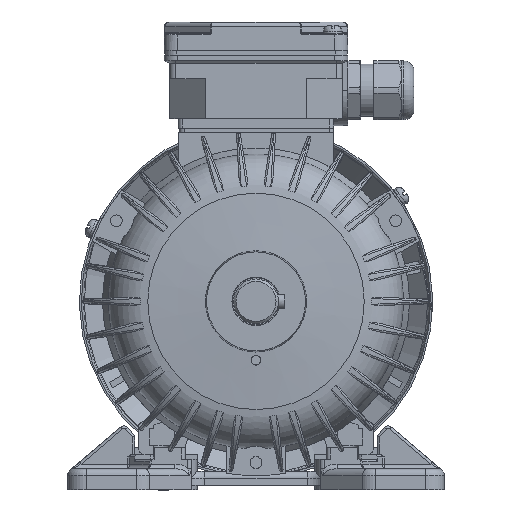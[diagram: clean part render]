
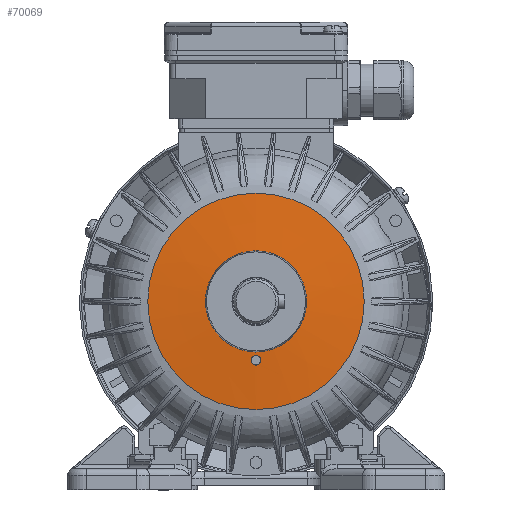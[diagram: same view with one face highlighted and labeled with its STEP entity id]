
A CAD part, left-side view. The second image highlights one B-rep face of the part: STEP entity #70069.
In plain terms, the highlighted conical face has half-angle 85.5 degrees and reference radius 21.472 mm.
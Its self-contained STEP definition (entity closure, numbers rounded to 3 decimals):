
#575=CONICAL_SURFACE('',#74330,21.472,1.492);
#1542=B_SPLINE_CURVE_WITH_KNOTS('',3,(#109697,#109698,#109699,#109700,#109701,
#109702,#109703,#109704,#109705,#109706,#109707),.UNSPECIFIED.,.T.,.F.,
(1,1,1,1,1,1,1,1,1,1,1,1,1,1,1),(-0.005,-0.003,
-0.002,0.,0.002,0.003,
0.005,0.006,0.008,0.009,
0.011,0.013,0.014,0.016,
0.017),.UNSPECIFIED.);
#20590=ORIENTED_EDGE('',*,*,#31304,.F.);
#20591=ORIENTED_EDGE('',*,*,#31128,.T.);
#20592=ORIENTED_EDGE('',*,*,#31305,.T.);
#31128=EDGE_CURVE('',#37374,#37374,#40696,.T.);
#31304=EDGE_CURVE('',#37432,#37432,#40767,.T.);
#31305=EDGE_CURVE('',#37433,#37433,#1542,.T.);
#37374=VERTEX_POINT('',#106429);
#37432=VERTEX_POINT('',#109696);
#37433=VERTEX_POINT('',#109708);
#40696=CIRCLE('',#74151,45.912);
#40767=CIRCLE('',#74331,21.472);
#43560=EDGE_LOOP('',(#20590));
#43561=EDGE_LOOP('',(#20591));
#43562=EDGE_LOOP('',(#20592));
#46919=FACE_BOUND('',#43560,.T.);
#46920=FACE_BOUND('',#43561,.T.);
#46921=FACE_BOUND('',#43562,.T.);
#70069=ADVANCED_FACE('',(#46919,#46920,#46921),#575,.T.);
#74151=AXIS2_PLACEMENT_3D('',#106428,#84752,#84753);
#74330=AXIS2_PLACEMENT_3D('',#109694,#85135,#85136);
#74331=AXIS2_PLACEMENT_3D('',#109695,#85137,#85138);
#84752=DIRECTION('',(-1.,0.,0.));
#84753=DIRECTION('',(0.,0.,-1.));
#85135=DIRECTION('',(1.,0.,0.));
#85136=DIRECTION('',(0.,0.,1.));
#85137=DIRECTION('',(-1.,0.,0.));
#85138=DIRECTION('',(0.,0.,-1.));
#106428=CARTESIAN_POINT('',(-32.577,0.,0.));
#106429=CARTESIAN_POINT('',(-32.577,0.,-45.912));
#109694=CARTESIAN_POINT('',(-34.5,0.,0.));
#109695=CARTESIAN_POINT('',(-34.5,0.,0.));
#109696=CARTESIAN_POINT('',(-34.5,0.,-21.472));
#109697=CARTESIAN_POINT('',(-34.049,-0.01,-27.218));
#109698=CARTESIAN_POINT('',(-34.096,1.564,-26.571));
#109699=CARTESIAN_POINT('',(-34.214,2.215,-25.007));
#109700=CARTESIAN_POINT('',(-34.341,1.576,-23.442));
#109701=CARTESIAN_POINT('',(-34.399,0.01,-22.782));
#109702=CARTESIAN_POINT('',(-34.343,-1.563,-23.429));
#109703=CARTESIAN_POINT('',(-34.215,-2.215,-24.989));
#109704=CARTESIAN_POINT('',(-34.097,-1.577,-26.558));
#109705=CARTESIAN_POINT('',(-34.049,-0.01,-27.218));
#109706=CARTESIAN_POINT('',(-34.096,1.564,-26.571));
#109707=CARTESIAN_POINT('',(-34.214,2.215,-25.007));
#109708=CARTESIAN_POINT('',(-34.108,1.41,-26.418));
